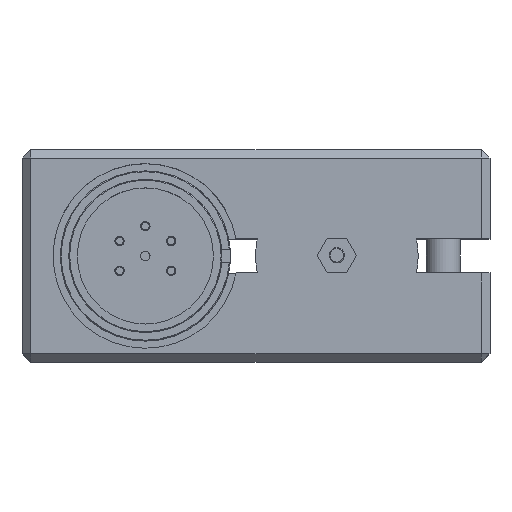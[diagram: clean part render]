
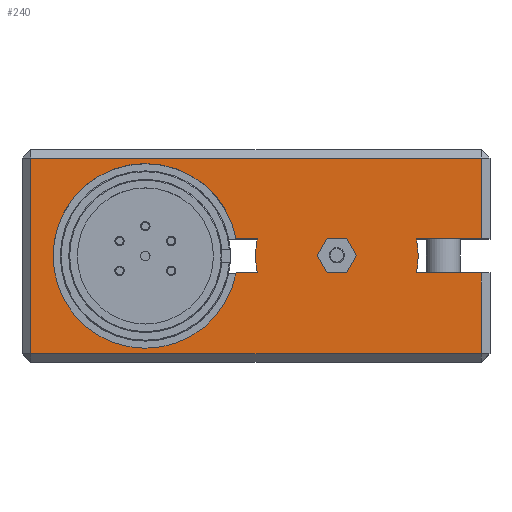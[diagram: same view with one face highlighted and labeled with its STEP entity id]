
A CAD part, top view. The second image highlights one B-rep face of the part: STEP entity #240.
In plain terms, the highlighted planar face has unit normal (0, 0, 1).
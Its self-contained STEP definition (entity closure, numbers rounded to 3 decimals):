
#240=ADVANCED_FACE('',(#531,#532,#533),#534,.T.);
#531=FACE_OUTER_BOUND('',#1055,.T.);
#532=FACE_BOUND('',#1056,.T.);
#533=FACE_BOUND('',#1057,.T.);
#534=PLANE('',#1058);
#1055=EDGE_LOOP('',(#2094,#2095,#2096,#2097,#2098,#2099,#2100,#2101,#2102));
#1056=EDGE_LOOP('',(#2103,#2104,#2105,#2106,#2107,#2108));
#1057=EDGE_LOOP('',(#2109,#2110));
#1058=AXIS2_PLACEMENT_3D('',#2111,#2112,#2113);
#2094=ORIENTED_EDGE('',*,*,#3449,.T.);
#2095=ORIENTED_EDGE('',*,*,#3415,.T.);
#2096=ORIENTED_EDGE('',*,*,#3534,.T.);
#2097=ORIENTED_EDGE('',*,*,#3520,.F.);
#2098=ORIENTED_EDGE('',*,*,#3516,.F.);
#2099=ORIENTED_EDGE('',*,*,#3521,.F.);
#2100=ORIENTED_EDGE('',*,*,#3523,.F.);
#2101=ORIENTED_EDGE('',*,*,#3531,.F.);
#2102=ORIENTED_EDGE('',*,*,#3535,.T.);
#2103=ORIENTED_EDGE('',*,*,#3536,.T.);
#2104=ORIENTED_EDGE('',*,*,#3537,.T.);
#2105=ORIENTED_EDGE('',*,*,#3378,.T.);
#2106=ORIENTED_EDGE('',*,*,#3538,.T.);
#2107=ORIENTED_EDGE('',*,*,#3411,.T.);
#2108=ORIENTED_EDGE('',*,*,#3453,.T.);
#2109=ORIENTED_EDGE('',*,*,#3446,.T.);
#2110=ORIENTED_EDGE('',*,*,#3421,.T.);
#2111=CARTESIAN_POINT('',(27.5,12.5,15.0));
#2112=DIRECTION('',(0.0,0.0,1.0));
#2113=DIRECTION('',(1.0,0.0,0.0));
#3378=EDGE_CURVE('',#4313,#4317,#4319,.T.);
#3411=EDGE_CURVE('',#4383,#4380,#4384,.T.);
#3415=EDGE_CURVE('',#4391,#4389,#4392,.T.);
#3421=EDGE_CURVE('',#4397,#4401,#4403,.T.);
#3446=EDGE_CURVE('',#4401,#4397,#4444,.T.);
#3449=EDGE_CURVE('',#4447,#4391,#4448,.T.);
#3453=EDGE_CURVE('',#4380,#4453,#4455,.T.);
#3516=EDGE_CURVE('',#4517,#4523,#4553,.T.);
#3520=EDGE_CURVE('',#4523,#4555,#4559,.T.);
#3521=EDGE_CURVE('',#4501,#4517,#4560,.T.);
#3523=EDGE_CURVE('',#4489,#4501,#4562,.T.);
#3531=EDGE_CURVE('',#4572,#4489,#4574,.T.);
#3534=EDGE_CURVE('',#4389,#4555,#4577,.T.);
#3535=EDGE_CURVE('',#4572,#4447,#4578,.T.);
#3536=EDGE_CURVE('',#4453,#4579,#4580,.T.);
#3537=EDGE_CURVE('',#4579,#4313,#4581,.T.);
#3538=EDGE_CURVE('',#4317,#4383,#4582,.T.);
#4313=VERTEX_POINT('',#5230);
#4317=VERTEX_POINT('',#5235);
#4319=CIRCLE('',#5238,10.85);
#4380=VERTEX_POINT('',#5347);
#4383=VERTEX_POINT('',#5351);
#4384=CIRCLE('',#5352,9.55);
#4389=VERTEX_POINT('',#5358);
#4391=VERTEX_POINT('',#5361);
#4392=CIRCLE('',#5362,9.55);
#4397=VERTEX_POINT('',#5368);
#4401=VERTEX_POINT('',#5373);
#4403=CIRCLE('',#5376,1.6);
#4444=CIRCLE('',#5425,1.6);
#4447=VERTEX_POINT('',#5428);
#4448=CIRCLE('',#5429,9.55);
#4453=VERTEX_POINT('',#5435);
#4455=CIRCLE('',#5438,9.55);
#4489=VERTEX_POINT('',#5520);
#4501=VERTEX_POINT('',#5538);
#4517=VERTEX_POINT('',#5564);
#4523=VERTEX_POINT('',#5573);
#4553=LINE('',#5623,#5624);
#4555=VERTEX_POINT('',#5627);
#4559=LINE('',#5633,#5634);
#4560=LINE('',#5635,#5636);
#4562=LINE('',#5639,#5640);
#4572=VERTEX_POINT('',#5656);
#4574=LINE('',#5659,#5660);
#4577=LINE('',#5665,#5666);
#4578=LINE('',#5667,#5668);
#4579=VERTEX_POINT('',#5669);
#4580=LINE('',#5670,#5671);
#4581=CIRCLE('',#5672,10.85);
#4582=LINE('',#5673,#5674);
#5230=CARTESIAN_POINT('',(3.65,12.5,15.0));
#5235=CARTESIAN_POINT('',(25.164,14.5,15.0));
#5238=AXIS2_PLACEMENT_3D('',#6708,#6709,#6710);
#5347=CARTESIAN_POINT('',(27.45,12.5,15.0));
#5351=CARTESIAN_POINT('',(27.662,14.5,15.0));
#5352=AXIS2_PLACEMENT_3D('',#6769,#6770,#6771);
#5358=CARTESIAN_POINT('',(46.338,14.5,15.0));
#5361=CARTESIAN_POINT('',(46.55,12.5,15.0));
#5362=AXIS2_PLACEMENT_3D('',#6777,#6778,#6779);
#5368=CARTESIAN_POINT('',(38.6,12.5,15.0));
#5373=CARTESIAN_POINT('',(35.4,12.5,15.0));
#5376=AXIS2_PLACEMENT_3D('',#6789,#6790,#6791);
#5425=AXIS2_PLACEMENT_3D('',#6848,#6849,#6850);
#5428=CARTESIAN_POINT('',(46.338,10.5,15.0));
#5429=AXIS2_PLACEMENT_3D('',#6857,#6858,#6859);
#5435=CARTESIAN_POINT('',(27.662,10.5,15.0));
#5438=AXIS2_PLACEMENT_3D('',#6865,#6866,#6867);
#5520=CARTESIAN_POINT('',(54.0,1.0,15.0));
#5538=CARTESIAN_POINT('',(1.0,1.0,15.0));
#5564=CARTESIAN_POINT('',(1.,24.0,15.0));
#5573=CARTESIAN_POINT('',(54.0,24.0,15.0));
#5623=CARTESIAN_POINT('',(1.0,24.0,15.0));
#5624=VECTOR('',#6940,53.0);
#5627=CARTESIAN_POINT('',(54.0,14.5,15.0));
#5633=CARTESIAN_POINT('',(54.0,24.0,15.0));
#5634=VECTOR('',#6944,9.5);
#5635=CARTESIAN_POINT('',(1.0,1.0,15.0));
#5636=VECTOR('',#6945,23.0);
#5639=CARTESIAN_POINT('',(54.0,1.0,15.0));
#5640=VECTOR('',#6947,53.0);
#5656=CARTESIAN_POINT('',(54.0,10.5,15.0));
#5659=CARTESIAN_POINT('',(54.0,10.5,15.0));
#5660=VECTOR('',#6955,9.5);
#5665=CARTESIAN_POINT('',(46.338,14.5,15.0));
#5666=VECTOR('',#6958,7.662);
#5667=CARTESIAN_POINT('',(54.0,10.5,15.0));
#5668=VECTOR('',#6959,7.662);
#5669=CARTESIAN_POINT('',(25.164,10.5,15.0));
#5670=CARTESIAN_POINT('',(27.662,10.5,15.0));
#5671=VECTOR('',#6960,2.498);
#5672=AXIS2_PLACEMENT_3D('',#6961,#6962,#6963);
#5673=CARTESIAN_POINT('',(25.164,14.5,15.0));
#5674=VECTOR('',#6964,2.498);
#6708=CARTESIAN_POINT('',(14.5,12.5,15.0));
#6709=DIRECTION('',(0.0,0.0,-1.0));
#6710=DIRECTION('',(1.0,0.0,0.0));
#6769=CARTESIAN_POINT('',(37.0,12.5,15.0));
#6770=DIRECTION('',(0.0,0.0,1.0));
#6771=DIRECTION('',(-1.0,0.0,0.0));
#6777=CARTESIAN_POINT('',(37.0,12.5,15.0));
#6778=DIRECTION('',(0.0,0.0,1.0));
#6779=DIRECTION('',(-1.0,0.0,0.0));
#6789=CARTESIAN_POINT('',(37.0,12.5,15.0));
#6790=DIRECTION('',(0.0,0.0,-1.0));
#6791=DIRECTION('',(1.0,0.0,0.0));
#6848=CARTESIAN_POINT('',(37.0,12.5,15.0));
#6849=DIRECTION('',(0.0,0.0,-1.0));
#6850=DIRECTION('',(1.0,0.0,0.0));
#6857=CARTESIAN_POINT('',(37.0,12.5,15.0));
#6858=DIRECTION('',(0.0,0.0,1.0));
#6859=DIRECTION('',(-1.0,0.0,0.0));
#6865=CARTESIAN_POINT('',(37.0,12.5,15.0));
#6866=DIRECTION('',(0.0,0.0,1.0));
#6867=DIRECTION('',(-1.0,0.0,0.0));
#6940=DIRECTION('',(1.0,0.0,0.0));
#6944=DIRECTION('',(0.0,-1.0,0.0));
#6945=DIRECTION('',(0.0,1.0,0.0));
#6947=DIRECTION('',(-1.0,0.0,0.0));
#6955=DIRECTION('',(0.0,-1.0,0.0));
#6958=DIRECTION('',(1.0,0.0,0.0));
#6959=DIRECTION('',(-1.0,0.0,0.0));
#6960=DIRECTION('',(-1.0,0.0,0.0));
#6961=CARTESIAN_POINT('',(14.5,12.5,15.0));
#6962=DIRECTION('',(0.0,0.0,-1.0));
#6963=DIRECTION('',(1.0,0.0,0.0));
#6964=DIRECTION('',(1.0,0.0,0.0));
